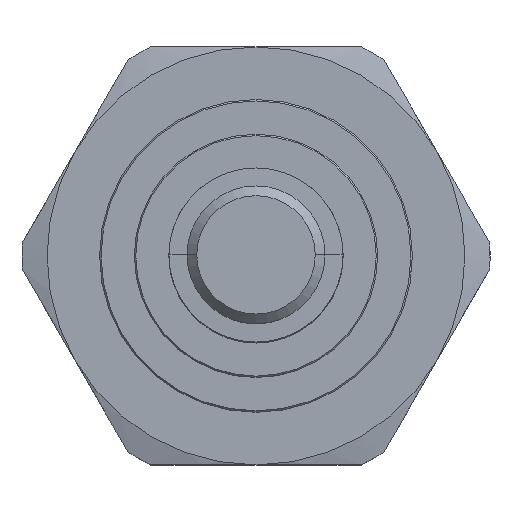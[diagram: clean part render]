
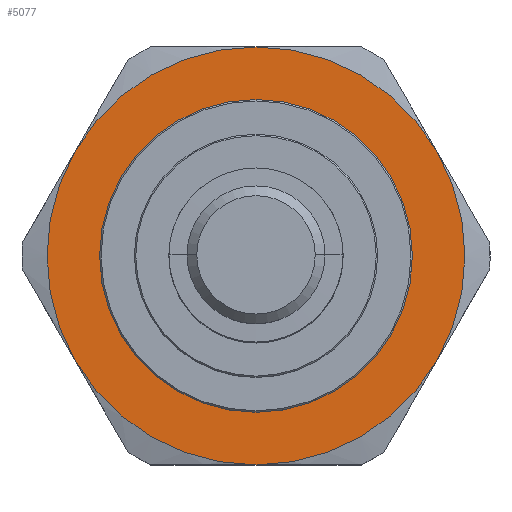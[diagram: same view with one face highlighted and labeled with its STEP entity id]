
A CAD part, top view. The second image highlights one B-rep face of the part: STEP entity #5077.
In plain terms, the highlighted planar face has unit normal (0, 0, 1).
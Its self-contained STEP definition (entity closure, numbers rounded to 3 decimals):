
#1720=CARTESIAN_POINT('',(0.,-19.05,6.768));
#1742=CARTESIAN_POINT('',(0.,0.,6.768));
#1743=DIRECTION('',(0.,0.,-1.));
#1744=DIRECTION('',(0.866,-0.5,0.));
#1745=AXIS2_PLACEMENT_3D('',#1742,#1743,#1744);
#1747=CARTESIAN_POINT('',(0.,0.,6.768));
#1748=DIRECTION('',(0.,0.,-1.));
#1749=DIRECTION('',(0.,-1.,0.));
#1750=AXIS2_PLACEMENT_3D('',#1747,#1748,#1749);
#1752=CARTESIAN_POINT('',(0.,0.,6.768));
#1753=DIRECTION('',(0.,0.,-1.));
#1754=DIRECTION('',(-0.866,-0.5,0.));
#1755=AXIS2_PLACEMENT_3D('',#1752,#1753,#1754);
#1757=CARTESIAN_POINT('',(0.,0.,6.768));
#1758=DIRECTION('',(0.,0.,-1.));
#1759=DIRECTION('',(-0.866,0.5,0.));
#1760=AXIS2_PLACEMENT_3D('',#1757,#1758,#1759);
#1762=CARTESIAN_POINT('',(0.,0.,6.768));
#1763=DIRECTION('',(0.,0.,-1.));
#1764=DIRECTION('',(0.,1.,0.));
#1765=AXIS2_PLACEMENT_3D('',#1762,#1763,#1764);
#1767=CARTESIAN_POINT('',(0.,0.,6.768));
#1768=DIRECTION('',(0.,0.,-1.));
#1769=DIRECTION('',(0.866,0.5,0.));
#1770=AXIS2_PLACEMENT_3D('',#1767,#1768,#1769);
#1772=CARTESIAN_POINT('',(0.,0.,6.768));
#1773=DIRECTION('',(0.,0.,1.));
#1774=DIRECTION('',(0.,-1.,0.));
#1775=AXIS2_PLACEMENT_3D('',#1772,#1773,#1774);
#1777=CARTESIAN_POINT('',(0.,0.,6.768));
#1778=DIRECTION('',(0.,0.,1.));
#1779=DIRECTION('',(0.,1.,0.));
#1780=AXIS2_PLACEMENT_3D('',#1777,#1778,#1779);
#2891=VERTEX_POINT('',#1720);
#2894=CARTESIAN_POINT('',(16.498,-9.525,6.768));
#2895=VERTEX_POINT('',#2894);
#2896=CARTESIAN_POINT('',(-16.498,-9.525,
6.768));
#2897=VERTEX_POINT('',#2896);
#2898=CARTESIAN_POINT('',(-16.498,9.525,6.768));
#2899=VERTEX_POINT('',#2898);
#2900=CARTESIAN_POINT('',(0.,19.05,6.768));
#2901=VERTEX_POINT('',#2900);
#2902=CARTESIAN_POINT('',(16.498,9.525,6.768));
#2903=VERTEX_POINT('',#2902);
#2904=CARTESIAN_POINT('',(0.,-14.256,6.768));
#2905=CARTESIAN_POINT('',(0.,14.256,6.768));
#2906=VERTEX_POINT('',#2904);
#2907=VERTEX_POINT('',#2905);
#5053=CARTESIAN_POINT('',(0.,0.,6.768));
#5054=DIRECTION('',(0.,0.,1.));
#5055=DIRECTION('',(0.,-1.,0.));
#5056=AXIS2_PLACEMENT_3D('',#5053,#5054,#5055);
#5057=PLANE('',#5056);
#5058=ORIENTED_EDGE('',*,*,#5045,.T.);
#5060=ORIENTED_EDGE('',*,*,#5059,.T.);
#5062=ORIENTED_EDGE('',*,*,#5061,.T.);
#5064=ORIENTED_EDGE('',*,*,#5063,.T.);
#5066=ORIENTED_EDGE('',*,*,#5065,.T.);
#5068=ORIENTED_EDGE('',*,*,#5067,.T.);
#5069=EDGE_LOOP('',(#5058,#5060,#5062,#5064,#5066,#5068));
#5070=FACE_OUTER_BOUND('',#5069,.F.);
#5072=ORIENTED_EDGE('',*,*,#5071,.T.);
#5074=ORIENTED_EDGE('',*,*,#5073,.T.);
#5075=EDGE_LOOP('',(#5072,#5074));
#5076=FACE_BOUND('',#5075,.F.);
#5077=ADVANCED_FACE('',(#5070,#5076),#5057,.T.);
#1746=CIRCLE('',#1745,19.05);
#1751=CIRCLE('',#1750,19.05);
#1756=CIRCLE('',#1755,19.05);
#1761=CIRCLE('',#1760,19.05);
#1766=CIRCLE('',#1765,19.05);
#1771=CIRCLE('',#1770,19.05);
#1776=CIRCLE('',#1775,14.256);
#1781=CIRCLE('',#1780,14.256);
#5045=EDGE_CURVE('',#2895,#2891,#1746,.T.);
#5059=EDGE_CURVE('',#2891,#2897,#1751,.T.);
#5061=EDGE_CURVE('',#2897,#2899,#1756,.T.);
#5063=EDGE_CURVE('',#2899,#2901,#1761,.T.);
#5065=EDGE_CURVE('',#2901,#2903,#1766,.T.);
#5067=EDGE_CURVE('',#2903,#2895,#1771,.T.);
#5071=EDGE_CURVE('',#2906,#2907,#1776,.T.);
#5073=EDGE_CURVE('',#2907,#2906,#1781,.T.);
